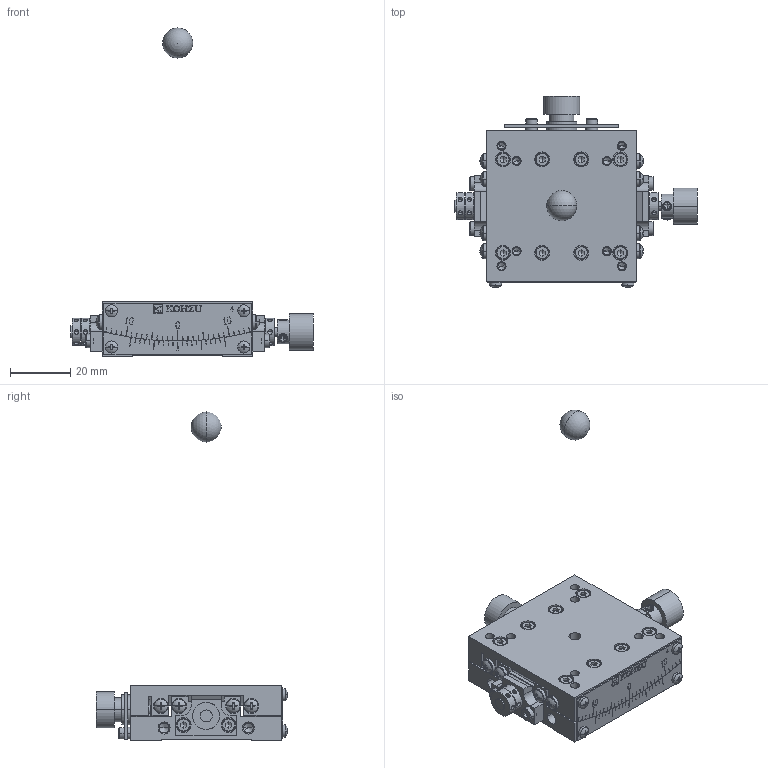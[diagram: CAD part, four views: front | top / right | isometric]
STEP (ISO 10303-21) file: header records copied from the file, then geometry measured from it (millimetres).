
FILE_DESCRIPTION (( 'STEP AP203' ), '1' );
FILE_NAME ('SH05B-RB.STEP', '2016-09-28T08:23:22', ( '' ), ( '' ), 'SwSTEP 2.0', 'SolidWorks 2011', '' );
FILE_SCHEMA (( 'CONFIG_CONTROL_DESIGN' ));
Products named in the file (4): SH05B-RB; rotation-center; base; table
Assembly tree (3 placements, depth 2):
  SH05B-RB
    rotation-center
    table
    base
Bounding box: 80.5 x 63.59 x 109 mm (x, y, z)
Volume: 44520.5 mm3; surface area: 26372.1 mm2
Topology: 3 solids, 43 shells, 2013 faces, 4832 edges, 2896 vertices
Faces by surface type: plane 986, cylinder 634, cone 281, torus 80, sphere 26, bspline 6
Entity records: 61392 total; most frequent: CARTESIAN_POINT 14185, DIRECTION 10197, ORIENTED_EDGE 9358, EDGE_CURVE 4679, AXIS2_PLACEMENT_3D 3789, VERTEX_POINT 2893, VECTOR 2619, LINE 2619
